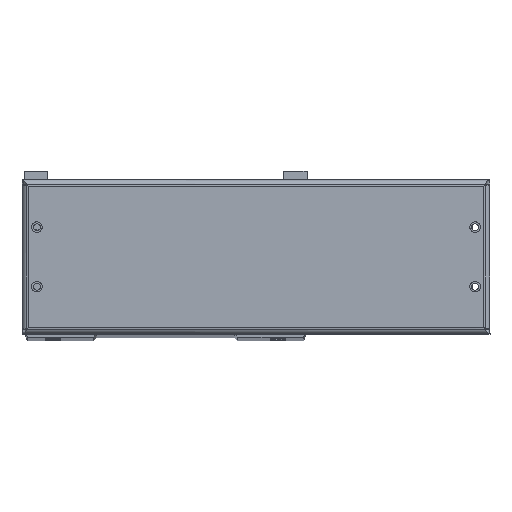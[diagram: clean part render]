
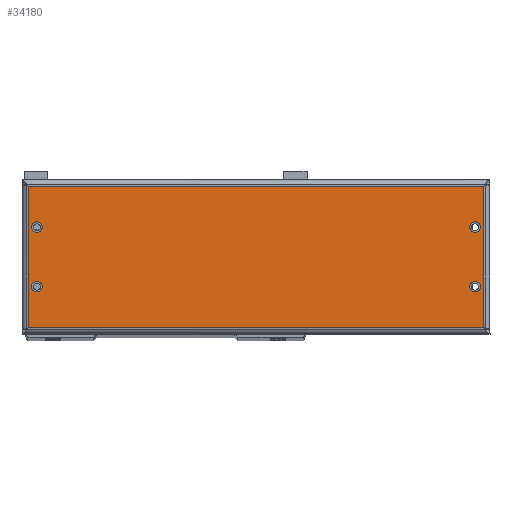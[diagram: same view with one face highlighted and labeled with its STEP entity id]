
A CAD part, top view. The second image highlights one B-rep face of the part: STEP entity #34180.
In plain terms, the highlighted planar face has unit normal (0, 0, 1) as drawn and (0, 0, -1) by its records, which use the part's own axes.
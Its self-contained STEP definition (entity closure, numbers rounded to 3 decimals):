
#61 = DIRECTION ( 'NONE',  ( 0., 0., -1. ) ) ;
#758 = CARTESIAN_POINT ( 'NONE',  ( 3023.591, 253.634, -52. ) ) ;
#762 = DIRECTION ( 'NONE',  ( 0., -1., 0. ) ) ;
#1449 = LINE ( 'NONE', #28155, #21168 ) ;
#1807 = CARTESIAN_POINT ( 'NONE',  ( 3028.237, 231.884, -52. ) ) ;
#2349 = EDGE_CURVE ( 'NONE', #14894, #17723, #24979, .T. ) ;
#2379 = CARTESIAN_POINT ( 'NONE',  ( 2813.591, 231.884, -52. ) ) ;
#2520 = ORIENTED_EDGE ( 'NONE', *, *, #8927, .T. ) ;
#3221 = EDGE_CURVE ( 'NONE', #17723, #14894, #25612, .T. ) ;
#3441 = ORIENTED_EDGE ( 'NONE', *, *, #17168, .F. ) ;
#3456 = EDGE_CURVE ( 'NONE', #30030, #18607, #25065, .T. ) ;
#3554 = CIRCLE ( 'NONE', #12080, 2.5 ) ;
#3864 = CARTESIAN_POINT ( 'NONE',  ( 2817.591, 248.634, -52. ) ) ;
#4055 = ORIENTED_EDGE ( 'NONE', *, *, #23104, .F. ) ;
#4214 = VECTOR ( 'NONE', #32947, 1000. ) ;
#4444 = FACE_BOUND ( 'NONE', #11843, .T. ) ;
#4545 = ORIENTED_EDGE ( 'NONE', *, *, #2349, .F. ) ;
#4883 = VECTOR ( 'NONE', #25885, 1000. ) ;
#5817 = DIRECTION ( 'NONE',  ( 0., -1., 0. ) ) ;
#6751 = DIRECTION ( 'NONE',  ( 0., 0., -1. ) ) ;
#7272 = DIRECTION ( 'NONE',  ( 0., -1., 0. ) ) ;
#7344 = AXIS2_PLACEMENT_3D ( 'NONE', #21589, #16267, #5817 ) ;
#7680 = DIRECTION ( 'NONE',  ( 0., -1., 0. ) ) ;
#8391 = EDGE_CURVE ( 'NONE', #13934, #32636, #20684, .T. ) ;
#8927 = EDGE_CURVE ( 'NONE', #21060, #11410, #33694, .T. ) ;
#9028 = ORIENTED_EDGE ( 'NONE', *, *, #12018, .T. ) ;
#9637 = DIRECTION ( 'NONE',  ( 0., 0., -1. ) ) ;
#9981 = CARTESIAN_POINT ( 'NONE',  ( 3023.591, 279.134, -52. ) ) ;
#10287 = ORIENTED_EDGE ( 'NONE', *, *, #8391, .F. ) ;
#10897 = VERTEX_POINT ( 'NONE', #32000 ) ;
#10959 = AXIS2_PLACEMENT_3D ( 'NONE', #31046, #9637, #28584 ) ;
#11055 = AXIS2_PLACEMENT_3D ( 'NONE', #14212, #25024, #22399 ) ;
#11410 = VERTEX_POINT ( 'NONE', #2379 ) ;
#11444 = EDGE_CURVE ( 'NONE', #22495, #19214, #3554, .T. ) ;
#11666 = AXIS2_PLACEMENT_3D ( 'NONE', #25697, #6751, #7272 ) ;
#11843 = EDGE_LOOP ( 'NONE', ( #4545, #17349 ) ) ;
#11967 = EDGE_CURVE ( 'NONE', #10897, #21060, #24792, .T. ) ;
#12018 = EDGE_CURVE ( 'NONE', #13023, #10897, #1449, .T. ) ;
#12080 = AXIS2_PLACEMENT_3D ( 'NONE', #14026, #61, #762 ) ;
#12346 = CARTESIAN_POINT ( 'NONE',  ( 2817.591, 281.634, -52. ) ) ;
#12388 = CARTESIAN_POINT ( 'NONE',  ( 3023.591, 251.134, -52. ) ) ;
#12752 = FACE_OUTER_BOUND ( 'NONE', #29515, .T. ) ;
#13023 = VERTEX_POINT ( 'NONE', #32131 ) ;
#13137 = CARTESIAN_POINT ( 'NONE',  ( 2817.591, 253.634, -52. ) ) ;
#13647 = ORIENTED_EDGE ( 'NONE', *, *, #34977, .F. ) ;
#13934 = VERTEX_POINT ( 'NONE', #33433 ) ;
#14026 = CARTESIAN_POINT ( 'NONE',  ( 3023.591, 279.134, -52. ) ) ;
#14212 = CARTESIAN_POINT ( 'NONE',  ( 3023.591, 251.134, -52. ) ) ;
#14329 = DIRECTION ( 'NONE',  ( 1., 0., 0. ) ) ;
#14497 = ORIENTED_EDGE ( 'NONE', *, *, #3456, .F. ) ;
#14798 = ORIENTED_EDGE ( 'NONE', *, *, #30289, .T. ) ;
#14894 = VERTEX_POINT ( 'NONE', #18757 ) ;
#15225 = FACE_BOUND ( 'NONE', #23415, .T. ) ;
#15496 = DIRECTION ( 'NONE',  ( 0., -1., 0. ) ) ;
#15739 = CIRCLE ( 'NONE', #24783, 2.5 ) ;
#15840 = CARTESIAN_POINT ( 'NONE',  ( 2817.591, 279.134, -52. ) ) ;
#16267 = DIRECTION ( 'NONE',  ( 0., 0., -1. ) ) ;
#17168 = EDGE_CURVE ( 'NONE', #32636, #13934, #15739, .T. ) ;
#17349 = ORIENTED_EDGE ( 'NONE', *, *, #3221, .F. ) ;
#17540 = FACE_BOUND ( 'NONE', #30849, .T. ) ;
#17639 = CARTESIAN_POINT ( 'NONE',  ( 3023.591, 276.634, -52. ) ) ;
#17676 = CARTESIAN_POINT ( 'NONE',  ( 3027.591, 231.884, -52. ) ) ;
#17723 = VERTEX_POINT ( 'NONE', #12346 ) ;
#18289 = VECTOR ( 'NONE', #21240, 1000. ) ;
#18607 = VERTEX_POINT ( 'NONE', #3864 ) ;
#18757 = CARTESIAN_POINT ( 'NONE',  ( 2817.591, 276.634, -52. ) ) ;
#19214 = VERTEX_POINT ( 'NONE', #34965 ) ;
#19627 = CIRCLE ( 'NONE', #23056, 2.5 ) ;
#19664 = DIRECTION ( 'NONE',  ( 0., -1., 0. ) ) ;
#20684 = CIRCLE ( 'NONE', #11055, 2.5 ) ;
#21060 = VERTEX_POINT ( 'NONE', #17676 ) ;
#21168 = VECTOR ( 'NONE', #14329, 1000. ) ;
#21240 = DIRECTION ( 'NONE',  ( 0., 1., 0. ) ) ;
#21589 = CARTESIAN_POINT ( 'NONE',  ( 2817.591, 251.134, -52. ) ) ;
#22146 = CARTESIAN_POINT ( 'NONE',  ( 3027.591, 299.031, -52. ) ) ;
#22399 = DIRECTION ( 'NONE',  ( 0., -1., 0. ) ) ;
#22495 = VERTEX_POINT ( 'NONE', #17639 ) ;
#22614 = CIRCLE ( 'NONE', #7344, 2.5 ) ;
#22734 = AXIS2_PLACEMENT_3D ( 'NONE', #32823, #33009, #28577 ) ;
#22790 = AXIS2_PLACEMENT_3D ( 'NONE', #15840, #23488, #15496 ) ;
#23056 = AXIS2_PLACEMENT_3D ( 'NONE', #9981, #23965, #7680 ) ;
#23104 = EDGE_CURVE ( 'NONE', #18607, #30030, #22614, .T. ) ;
#23415 = EDGE_LOOP ( 'NONE', ( #31193, #13647 ) ) ;
#23488 = DIRECTION ( 'NONE',  ( 0., 0., -1. ) ) ;
#23965 = DIRECTION ( 'NONE',  ( 0., 0., -1. ) ) ;
#24286 = ORIENTED_EDGE ( 'NONE', *, *, #11967, .T. ) ;
#24783 = AXIS2_PLACEMENT_3D ( 'NONE', #12388, #33660, #19664 ) ;
#24792 = LINE ( 'NONE', #22146, #4214 ) ;
#24979 = CIRCLE ( 'NONE', #22734, 2.5 ) ;
#25024 = DIRECTION ( 'NONE',  ( 0., 0., -1. ) ) ;
#25065 = CIRCLE ( 'NONE', #10959, 2.5 ) ;
#25131 = EDGE_LOOP ( 'NONE', ( #10287, #3441 ) ) ;
#25612 = CIRCLE ( 'NONE', #22790, 2.5 ) ;
#25697 = CARTESIAN_POINT ( 'NONE',  ( 2920.591, 265.134, -52. ) ) ;
#25885 = DIRECTION ( 'NONE',  ( -1., 0., 0. ) ) ;
#28155 = CARTESIAN_POINT ( 'NONE',  ( 2812.944, 298.384, -52. ) ) ;
#28577 = DIRECTION ( 'NONE',  ( 0., -1., 0. ) ) ;
#28584 = DIRECTION ( 'NONE',  ( 0., -1., 0. ) ) ;
#29515 = EDGE_LOOP ( 'NONE', ( #9028, #24286, #2520, #14798 ) ) ;
#30030 = VERTEX_POINT ( 'NONE', #13137 ) ;
#30289 = EDGE_CURVE ( 'NONE', #11410, #13023, #33454, .T. ) ;
#30796 = CARTESIAN_POINT ( 'NONE',  ( 2813.591, 231.238, -52. ) ) ;
#30849 = EDGE_LOOP ( 'NONE', ( #4055, #14497 ) ) ;
#30994 = PLANE ( 'NONE',  #11666 ) ;
#31046 = CARTESIAN_POINT ( 'NONE',  ( 2817.591, 251.134, -52. ) ) ;
#31168 = FACE_BOUND ( 'NONE', #25131, .T. ) ;
#31193 = ORIENTED_EDGE ( 'NONE', *, *, #11444, .F. ) ;
#32000 = CARTESIAN_POINT ( 'NONE',  ( 3027.591, 298.384, -52. ) ) ;
#32131 = CARTESIAN_POINT ( 'NONE',  ( 2813.591, 298.384, -52. ) ) ;
#32636 = VERTEX_POINT ( 'NONE', #758 ) ;
#32823 = CARTESIAN_POINT ( 'NONE',  ( 2817.591, 279.134, -52. ) ) ;
#32947 = DIRECTION ( 'NONE',  ( 0., -1., 0. ) ) ;
#33009 = DIRECTION ( 'NONE',  ( 0., 0., -1. ) ) ;
#33433 = CARTESIAN_POINT ( 'NONE',  ( 3023.591, 248.634, -52. ) ) ;
#33454 = LINE ( 'NONE', #30796, #18289 ) ;
#33660 = DIRECTION ( 'NONE',  ( 0., 0., -1. ) ) ;
#33694 = LINE ( 'NONE', #1807, #4883 ) ;
#34180 = ADVANCED_FACE ( 'NONE', ( #4444, #17540, #15225, #31168, #12752 ), #30994, .T. ) ;
#34965 = CARTESIAN_POINT ( 'NONE',  ( 3023.591, 281.634, -52. ) ) ;
#34977 = EDGE_CURVE ( 'NONE', #19214, #22495, #19627, .T. ) ;
